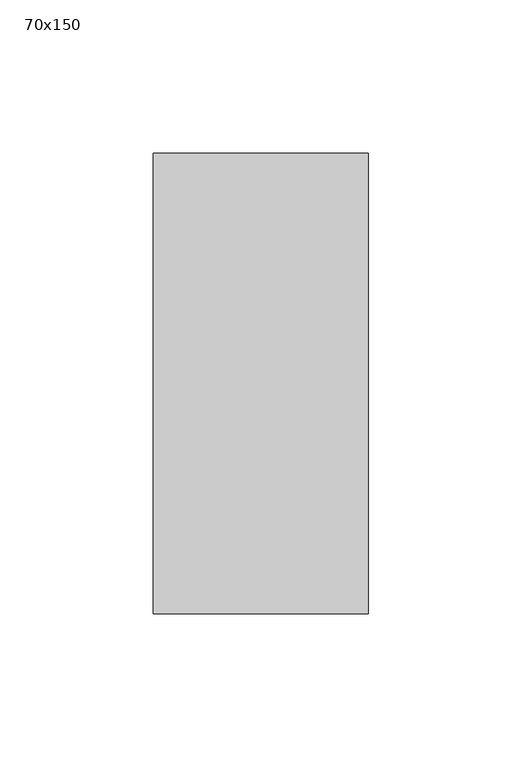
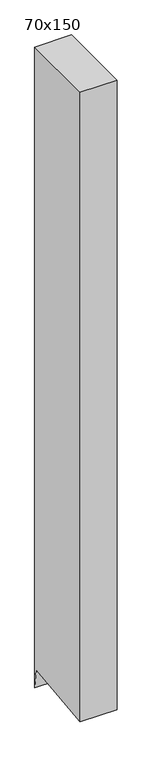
"""IFC4 building model written with IfcOpenShell, lengths in millimetres: member geometry, 長方形のマリオン : 70x150."""

from ifc_helpers import new_model, si_unit, frame, origin, place, context, project, spatial, polyline, outline, extrude, source, transform, mapped, element, save


def member_70x150_020e1844(model_context):
    return source(origin(), model_context, "Body", "SweptSolid", [
        extrude(outline(polyline([(-75.0, 0.0), (75.0, 0.0), (75.0, -1288.2491282), (70.6798324, -1249.337525), (-75.0, -1265.5116542), (-75.0, 0.0)])), frame((-70.0, 0.0, 0.0), z_axis=(1.0, 0.0, 0.0), x_axis=(0.0, 1.0, 0.0)), (0.0, 0.0, 1.0), 70.0),
    ])


if __name__ == "__main__":
    model = new_model("IFC4")
    model_context = context("Model", 3, world=origin())
    ifc_project = project(units=[si_unit("LENGTHUNIT", "METRE", prefix="MILLI")], contexts=[model_context])
    site = spatial("IfcSite", under=ifc_project)
    building = spatial("IfcBuilding", under=site)
    placement = place(None, origin())
    member_70x150_shape = member_70x150_020e1844(model_context)
    element("IfcMember", 1, ObjectType="長方形のマリオン : 70x150", at=placement, inside=building, context=model_context, shape_type="MappedRepresentation", body=[
        mapped(member_70x150_shape, transform((0.0, 0.0, 0.0), x_axis=(1.0, 0.0, 0.0), y_axis=(0.0, 1.0, 0.0), z_axis=(0.0, 0.0, 1.0))),
    ])
    save(model, "model.ifc")
